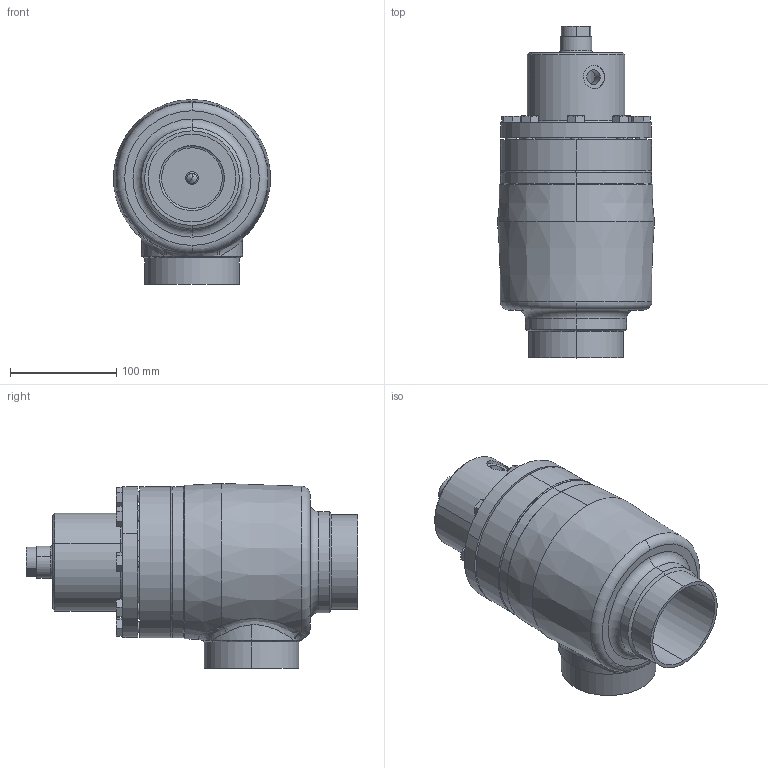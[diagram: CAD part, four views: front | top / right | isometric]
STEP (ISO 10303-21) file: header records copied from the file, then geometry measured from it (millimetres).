
FILE_DESCRIPTION (( 'STEP AP214' ), '1' );
FILE_NAME ('RVD4280xC18-DN80_1-8bar.STEP', '2007-01-10T14:56:59', ( 'Herr Grams' ), ( 'AWP GmbH' ), 'SwSTEP 2.0', 'SolidWorks 2002296', '' );
FILE_SCHEMA (( 'AUTOMOTIVE_DESIGN' ));
Length unit declared in the file: millimetre
Products named in the file (9): RVD4280xC18-DN80_1-8bar; Gehäuse-kpl16400-DN080_R1_Standard; bead-DN080-1_Standard; Kopfstück16300-DN080_Standard; Gehäuse16400-DN080_Standard; RVD42700E18_Deck+Schr-DN80_1-8bar_Standard; Deckel42700E18-DN80_1-8bar_PS40_Standard; Sechskantschraube-DIN933_M10x 25; Verschlußschr4270xE18-DN80_1-8bar_M12x  57,5_2+8 bar
Assembly tree (15 placements, depth 3):
  RVD4280xC18-DN80_1-8bar
    RVD42700E18_Deck+Schr-DN80_1-8bar_Standard
      Sechskantschraube-DIN933_M10x 25  x8
      Deckel42700E18-DN80_1-8bar_PS40_Standard
    Verschlußschr4270xE18-DN80_1-8bar_M12x  57,5_2+8 bar
    Gehäuse-kpl16400-DN080_R1_Standard
      bead-DN080-1_Standard
      Gehäuse16400-DN080_Standard
      Kopfstück16300-DN080_Standard
Bounding box: 147.49 x 312 x 173.89 mm (x, y, z)
Volume: 1660613.9 mm3; surface area: 357373.9 mm2
Topology: 13 solids, 13 shells, 337 faces, 724 edges, 432 vertices
Faces by surface type: cone 131, plane 98, cylinder 86, bspline 12, torus 10
Entity records: 16382 total; most frequent: CARTESIAN_POINT 12158, DIRECTION 827, ORIENTED_EDGE 716, AXIS2_PLACEMENT_3D 363, EDGE_CURVE 358, VERTEX_POINT 222, EDGE_LOOP 204, CIRCLE 193
